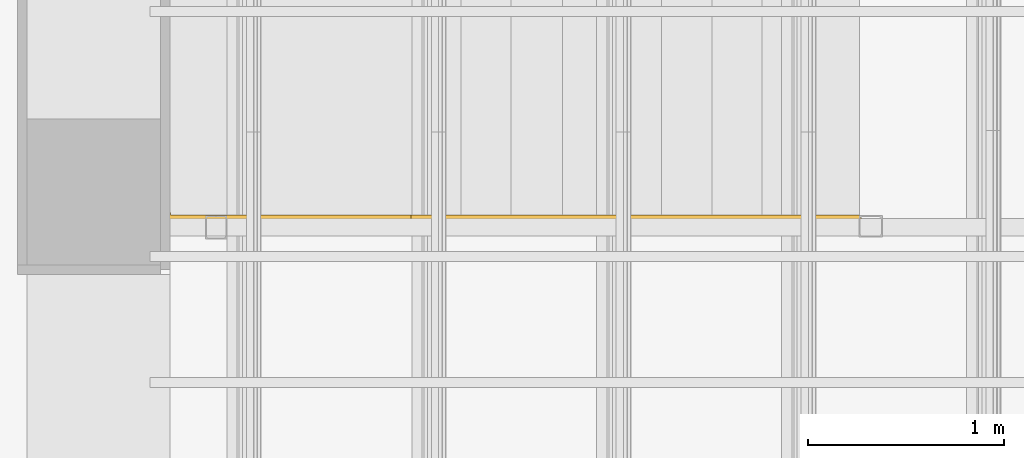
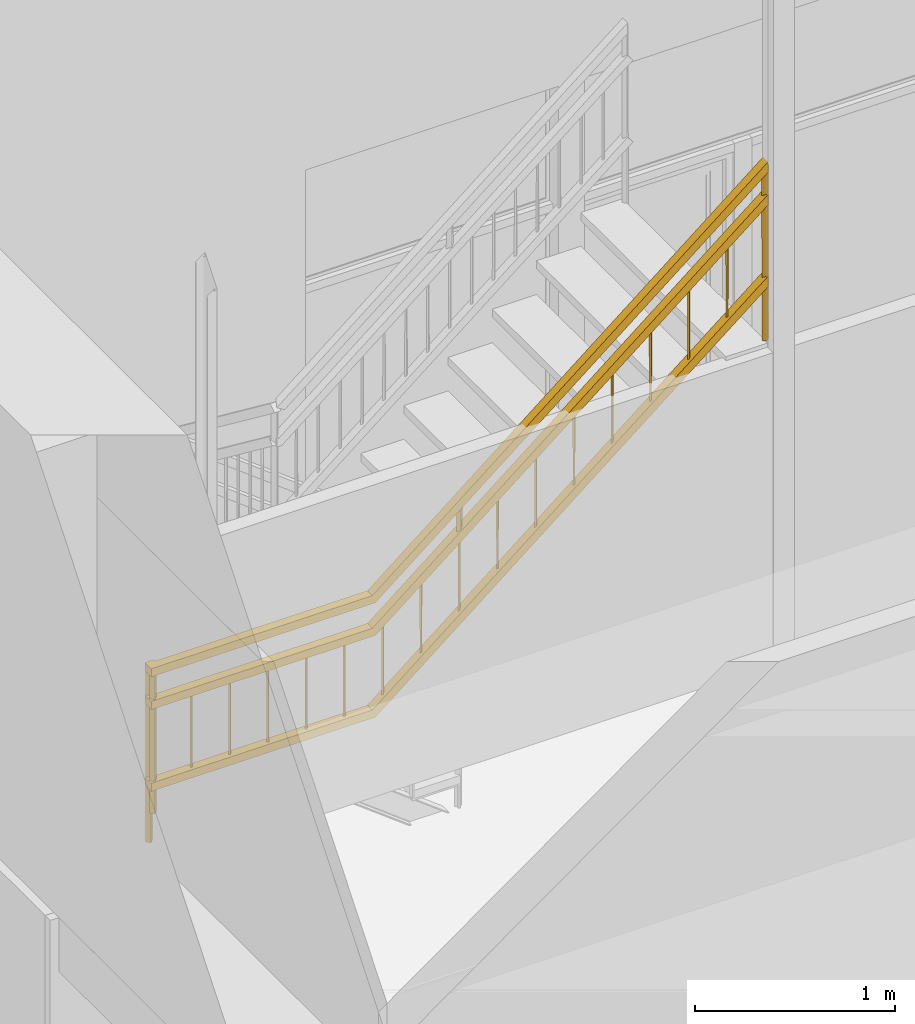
# One storey, part 57 of 75: 1 railing.
"""IFC2X3 building model written with IfcOpenShell, lengths in metres."""

from ifc_helpers import new_model, entity, si_unit, converted_unit, derived_unit, direction, frame, origin, place, context, subcontext, project, spatial, faceted_brep, element, save


model = new_model("IFC2X3")

# Units and contexts
model_context = context("Model", 3, precision=1e-05, world=origin(), true_north=direction((6.12303176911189e-17, 1.0)))
body_context = subcontext(model_context, "Body", "Model", "MODEL_VIEW")
ifc_project = project(units=[si_unit("LENGTHUNIT", "METRE"), si_unit("AREAUNIT", "SQUARE_METRE"), si_unit("VOLUMEUNIT", "CUBIC_METRE"), converted_unit("PLANEANGLEUNIT", "DEGREE", entity("IfcRatioMeasure", 0.0174532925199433), si_unit("PLANEANGLEUNIT", "RADIAN"), dimensions=[0, 0, 0, 0, 0, 0, 0]), si_unit("MASSUNIT", "GRAM", prefix="KILO"), derived_unit("MASSDENSITYUNIT", [(si_unit("MASSUNIT", "GRAM", prefix="KILO"), 1), (si_unit("LENGTHUNIT", "METRE"), -3)]), derived_unit("MOMENTOFINERTIAUNIT", [(si_unit("LENGTHUNIT", "METRE"), 4)]), si_unit("TIMEUNIT", "SECOND"), si_unit("FREQUENCYUNIT", "HERTZ"), si_unit("THERMODYNAMICTEMPERATUREUNIT", "DEGREE_CELSIUS"), derived_unit("THERMALTRANSMITTANCEUNIT", [(si_unit("MASSUNIT", "GRAM", prefix="KILO"), 1), (si_unit("THERMODYNAMICTEMPERATUREUNIT", "KELVIN"), -1), (si_unit("TIMEUNIT", "SECOND"), -3)]), derived_unit("VOLUMETRICFLOWRATEUNIT", [(si_unit("LENGTHUNIT", "METRE"), 3), (si_unit("TIMEUNIT", "SECOND"), -1)]), si_unit("ELECTRICCURRENTUNIT", "AMPERE"), si_unit("ELECTRICVOLTAGEUNIT", "VOLT"), si_unit("POWERUNIT", "WATT"), si_unit("FORCEUNIT", "NEWTON", prefix="KILO"), si_unit("ILLUMINANCEUNIT", "LUX"), si_unit("LUMINOUSFLUXUNIT", "LUMEN"), si_unit("LUMINOUSINTENSITYUNIT", "CANDELA"), derived_unit("USERDEFINED", [(si_unit("MASSUNIT", "GRAM", prefix="KILO"), -1), (si_unit("LENGTHUNIT", "METRE"), -2), (si_unit("TIMEUNIT", "SECOND"), 3), (si_unit("LUMINOUSFLUXUNIT", "LUMEN"), 1)]), derived_unit("LINEARVELOCITYUNIT", [(si_unit("LENGTHUNIT", "METRE"), 1), (si_unit("TIMEUNIT", "SECOND"), -1)]), si_unit("PRESSUREUNIT", "PASCAL"), derived_unit("USERDEFINED", [(si_unit("LENGTHUNIT", "METRE"), -2), (si_unit("MASSUNIT", "GRAM", prefix="KILO"), 1), (si_unit("TIMEUNIT", "SECOND"), -2)]), derived_unit("LINEARFORCEUNIT", [(si_unit("MASSUNIT", "GRAM", prefix="KILO"), 1), (si_unit("LENGTHUNIT", "METRE"), 1), (si_unit("TIMEUNIT", "SECOND"), -2), (si_unit("LENGTHUNIT", "METRE"), -1)]), derived_unit("PLANARFORCEUNIT", [(si_unit("MASSUNIT", "GRAM", prefix="KILO"), 1), (si_unit("LENGTHUNIT", "METRE"), 1), (si_unit("TIMEUNIT", "SECOND"), -2), (si_unit("LENGTHUNIT", "METRE"), -2)])], contexts=[model_context])

# Site, building, storey
site_placement = place(None, origin())
site = spatial("IfcSite", under=ifc_project, at=site_placement, Name="Superficie", CompositionType="ELEMENT")
building_placement = place(site_placement, origin())
building = spatial("IfcBuilding", under=site, at=building_placement, Name="Telegestiones", CompositionType="ELEMENT")
storey_placement = place(building_placement, origin())
storey = spatial("IfcBuildingStorey", under=building, at=storey_placement, Name="Nivel 0_NPT", CompositionType="ELEMENT", Elevation=0.0)

# Railing
railing_placement = place(storey_placement, frame((6.0352126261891, 1.49674260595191, 3.0896)))
element("IfcRailing", 1, at=railing_placement, inside=storey, Name="Barandilla:ARQ-BA-IN-Hi-Escalera", ObjectType="Barandilla:ARQ-BA-IN-Hi-Escalera", PredefinedType="NOTDEFINED", context=body_context, shape_type="Brep", body=[
    faceted_brep([(3.34618749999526, 0.0175000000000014, 2.07173004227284), (3.35349945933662, 0.0233310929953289, 2.52764443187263), (3.34618749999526, 0.0175000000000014, 2.52173004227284), (3.35349945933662, 0.0266689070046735, 2.07764443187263), (3.34618749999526, 0.0325000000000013, 2.07173004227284), (3.34618749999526, 0.0325000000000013, 2.52173004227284), (3.3388755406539, 0.0266689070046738, 2.51581565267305), (3.3388755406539, 0.0233310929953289, 2.06581565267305)], [[[0, 1, 2]], [[1, 0, 3]], [[3, 4, 5]], [[3, 5, 1]], [[5, 4, 6]], [[6, 4, 7]], [[7, 0, 2]], [[7, 2, 6]], [[2, 1, 5, 6]], [[0, 7, 4, 3]]]),
    faceted_brep([(3.12477499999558, 0.017500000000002, 1.89263717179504), (3.13208695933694, 0.0233310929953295, 2.34855156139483), (3.12477499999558, 0.017500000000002, 2.34263717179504), (3.13208695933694, 0.026668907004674, 1.89855156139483), (3.12477499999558, 0.0325000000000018, 1.89263717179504), (3.12477499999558, 0.0325000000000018, 2.34263717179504), (3.11746304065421, 0.0266689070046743, 2.33672278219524), (3.11746304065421, 0.0233310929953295, 1.88672278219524)], [[[0, 1, 2]], [[1, 0, 3]], [[3, 4, 5]], [[3, 5, 1]], [[5, 4, 6]], [[6, 4, 7]], [[7, 0, 2]], [[7, 2, 6]], [[2, 1, 5, 6]], [[0, 7, 4, 3]]]),
    faceted_brep([(2.90336249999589, 0.0175000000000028, 1.71354430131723), (2.91067445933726, 0.0233310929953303, 2.16945869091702), (2.90336249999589, 0.0175000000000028, 2.16354430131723), (2.91067445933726, 0.0266689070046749, 1.71945869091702), (2.90336249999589, 0.0325000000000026, 1.71354430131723), (2.90336249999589, 0.0325000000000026, 2.16354430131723), (2.89605054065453, 0.0266689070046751, 2.15762991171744), (2.89605054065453, 0.0233310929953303, 1.70762991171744)], [[[0, 1, 2]], [[1, 0, 3]], [[3, 4, 5]], [[3, 5, 1]], [[5, 4, 6]], [[6, 4, 7]], [[7, 0, 2]], [[7, 2, 6]], [[2, 1, 5, 6]], [[0, 7, 4, 3]]]),
    faceted_brep([(2.68194999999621, 0.0175000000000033, 1.53445143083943), (2.68926195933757, 0.0233310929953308, 1.99036582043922), (2.68194999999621, 0.0175000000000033, 1.98445143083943), (2.68926195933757, 0.0266689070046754, 1.54036582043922), (2.68194999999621, 0.0325000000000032, 1.53445143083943), (2.68194999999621, 0.0325000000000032, 1.98445143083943), (2.67463804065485, 0.0266689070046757, 1.97853704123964), (2.67463804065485, 0.0233310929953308, 1.52853704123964)], [[[0, 1, 2]], [[1, 0, 3]], [[3, 4, 5]], [[3, 5, 1]], [[5, 4, 6]], [[6, 4, 7]], [[7, 0, 2]], [[7, 2, 6]], [[2, 1, 5, 6]], [[0, 7, 4, 3]]]),
    faceted_brep([(2.46053749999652, 0.0175000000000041, 1.35535856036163), (2.46784945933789, 0.0233310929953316, 1.81127294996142), (2.46053749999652, 0.0175000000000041, 1.80535856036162), (2.46784945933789, 0.0266689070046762, 1.36127294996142), (2.46053749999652, 0.032500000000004, 1.35535856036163), (2.46053749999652, 0.032500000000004, 1.80535856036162), (2.45322554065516, 0.0266689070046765, 1.79944417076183), (2.45322554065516, 0.0233310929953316, 1.34944417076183)], [[[0, 1, 2]], [[1, 0, 3]], [[3, 4, 5]], [[3, 5, 1]], [[5, 4, 6]], [[6, 4, 7]], [[7, 0, 2]], [[7, 2, 6]], [[2, 1, 5, 6]], [[0, 7, 4, 3]]]),
    faceted_brep([(2.23912499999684, 0.017500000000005, 1.17626568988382), (2.2464369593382, 0.0233310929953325, 1.63218007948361), (2.23912499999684, 0.017500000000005, 1.62626568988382), (2.2464369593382, 0.026668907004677, 1.18218007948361), (2.23912499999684, 0.0325000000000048, 1.17626568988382), (2.23912499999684, 0.0325000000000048, 1.62626568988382), (2.23181304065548, 0.0266689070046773, 1.62035130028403), (2.23181304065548, 0.0233310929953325, 1.17035130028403)], [[[0, 1, 2]], [[1, 0, 3]], [[3, 4, 5]], [[3, 5, 1]], [[5, 4, 6]], [[6, 4, 7]], [[7, 0, 2]], [[7, 2, 6]], [[2, 1, 5, 6]], [[0, 7, 4, 3]]]),
    faceted_brep([(2.01771249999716, 0.0175000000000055, 0.997172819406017), (2.02502445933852, 0.023331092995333, 1.45308720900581), (2.01771249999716, 0.0175000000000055, 1.44717281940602), (2.02502445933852, 0.0266689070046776, 1.00308720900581), (2.01771249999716, 0.0325000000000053, 0.997172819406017), (2.01771249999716, 0.0325000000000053, 1.44717281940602), (2.01040054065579, 0.0266689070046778, 1.44125842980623), (2.01040054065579, 0.023331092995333, 0.991258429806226)], [[[0, 1, 2]], [[1, 0, 3]], [[3, 4, 5]], [[3, 5, 1]], [[5, 4, 6]], [[6, 4, 7]], [[7, 0, 2]], [[7, 2, 6]], [[2, 1, 5, 6]], [[0, 7, 4, 3]]]),
    faceted_brep([(1.79629999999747, 0.0175000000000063, 0.818079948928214), (1.80361195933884, 0.0233310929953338, 1.273994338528), (1.79629999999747, 0.0175000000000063, 1.26807994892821), (1.80361195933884, 0.0266689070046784, 0.823994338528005), (1.79629999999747, 0.0325000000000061, 0.818079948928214), (1.79629999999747, 0.0325000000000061, 1.26807994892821), (1.78898804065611, 0.0266689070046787, 1.26216555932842), (1.78898804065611, 0.0233310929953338, 0.812165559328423)], [[[0, 1, 2]], [[1, 0, 3]], [[3, 4, 5]], [[3, 5, 1]], [[5, 4, 6]], [[6, 4, 7]], [[7, 0, 2]], [[7, 2, 6]], [[2, 1, 5, 6]], [[0, 7, 4, 3]]]),
    faceted_brep([(1.80604927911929, 0.0127747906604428, 1.46165672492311), (1.80117463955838, 0.0111126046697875, 1.32202287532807), (1.80361195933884, 0.0141689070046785, 1.323994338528), (1.80604927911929, 0.017225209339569, 1.32596580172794), (1.81336123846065, 0.0236058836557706, 1.4675711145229), (1.81579855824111, 0.0205495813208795, 1.46954257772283), (1.81336123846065, 0.0263941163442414, 1.33188019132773), (1.80117463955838, 0.0088873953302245, 1.45771379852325), (1.79629999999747, 0.0450000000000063, 1.31807994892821), (1.79873731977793, 0.0419436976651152, 1.45574233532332), (1.80117463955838, 0.0411126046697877, 1.32202287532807), (1.80604927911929, 0.0327747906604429, 1.46165672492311), (1.80604927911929, 0.0372252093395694, 1.32596580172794), (1.80117463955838, 0.0388873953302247, 1.45771379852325), (1.80361195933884, 0.0358310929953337, 1.45968526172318), (1.79629999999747, 0.00500000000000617, 1.45377087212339), (1.79873731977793, 0.00805630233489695, 1.32005141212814), (1.8109239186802, 0.0333378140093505, 1.3299087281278), (1.80848659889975, 0.0202815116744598, 1.32793726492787), (1.8109239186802, 0.0233378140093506, 1.3299087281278), (1.80848659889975, 0.0297184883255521, 1.46362818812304), (1.8109239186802, 0.0266621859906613, 1.46559965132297), (1.81579855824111, 0.0294504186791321, 1.33385165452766), (1.79629999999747, 0.0450000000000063, 1.45377087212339), (1.8109239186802, 0.0166621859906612, 1.46559965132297), (1.79629999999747, 0.00500000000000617, 1.31807994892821), (1.78655072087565, 0.0372252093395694, 1.44588501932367), (1.79142536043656, 0.038887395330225, 1.31413702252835), (1.78898804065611, 0.0358310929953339, 1.31216555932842), (1.78655072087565, 0.0327747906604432, 1.31019409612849), (1.7841134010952, 0.0297184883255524, 1.30822263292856), (1.78167608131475, 0.0266621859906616, 1.30625116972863), (1.77680144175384, 0.0294504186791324, 1.43799916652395), (1.77923876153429, 0.0236058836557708, 1.3042797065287), (1.77923876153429, 0.0263941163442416, 1.43997062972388), (1.79386268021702, 0.00805630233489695, 1.45179940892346), (1.79142536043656, 0.00888739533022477, 1.31413702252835), (1.78655072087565, 0.0127747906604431, 1.31019409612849), (1.79142536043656, 0.0111126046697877, 1.44982794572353), (1.78898804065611, 0.0141689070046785, 1.4478564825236), (1.78655072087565, 0.0172252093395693, 1.44588501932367), (1.78167608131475, 0.033337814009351, 1.44194209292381), (1.79386268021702, 0.0419436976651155, 1.31610848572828), (1.79142536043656, 0.041112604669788, 1.44982794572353), (1.7841134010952, 0.0202815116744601, 1.44391355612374), (1.78167608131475, 0.0233378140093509, 1.44194209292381), (1.77680144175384, 0.02054958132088, 1.30230824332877), (1.78167608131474, 0.0166621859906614, 1.30625116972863)], [[[0, 1, 2, 3]], [[4, 5, 6]], [[1, 0, 7]], [[8, 9, 10]], [[11, 12, 13, 14]], [[15, 16, 7]], [[17, 12, 11]], [[5, 18, 19, 6]], [[20, 21, 4, 22]], [[22, 17, 20]], [[17, 11, 20]], [[9, 8, 23]], [[13, 12, 10]], [[22, 4, 6]], [[5, 24, 18]], [[24, 0, 3]], [[9, 13, 10]], [[16, 15, 25]], [[16, 1, 7]], [[24, 3, 18]], [[26, 27, 28, 29]], [[30, 31, 32]], [[31, 33, 34]], [[25, 35, 36]], [[37, 38, 39, 40]], [[32, 41, 30]], [[31, 34, 32]], [[41, 26, 29]], [[23, 42, 43]], [[44, 45, 46]], [[47, 40, 44]], [[38, 37, 36]], [[42, 23, 8]], [[27, 26, 43]], [[33, 45, 34]], [[46, 45, 33]], [[46, 47, 44]], [[47, 37, 40]], [[41, 29, 30]], [[35, 25, 15]], [[35, 38, 36]], [[42, 27, 43]], [[34, 45, 44, 40, 39, 38, 35, 15, 7, 0, 24, 5, 4, 21, 20, 11, 14, 13, 9, 23, 43, 26, 41, 32]], [[6, 19, 18, 3, 2, 1, 16, 25, 36, 37, 47, 46, 33, 31, 30, 29, 28, 27, 42, 8, 10, 12, 17, 22]]]),
    faceted_brep([(1.57488749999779, 0.0175000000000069, 0.63898707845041), (1.58219945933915, 0.0233310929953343, 1.0949014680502), (1.57488749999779, 0.0175000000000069, 1.08898707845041), (1.58219945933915, 0.0266689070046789, 0.6449014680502), (1.57488749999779, 0.0325000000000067, 0.63898707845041), (1.57488749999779, 0.0325000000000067, 1.08898707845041), (1.56757554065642, 0.0266689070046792, 1.08307268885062), (1.56757554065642, 0.0233310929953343, 0.633072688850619)], [[[0, 1, 2]], [[1, 0, 3]], [[3, 4, 5]], [[3, 5, 1]], [[5, 4, 6]], [[6, 4, 7]], [[7, 0, 2]], [[7, 2, 6]], [[2, 1, 5, 6]], [[0, 7, 4, 3]]]),
    faceted_brep([(1.3534749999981, 0.0175000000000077, 0.459894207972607), (1.36078695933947, 0.0233310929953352, 0.915808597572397), (1.3534749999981, 0.0175000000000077, 0.909894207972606), (1.36078695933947, 0.0266689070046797, 0.465808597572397), (1.3534749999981, 0.0325000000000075, 0.459894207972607), (1.3534749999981, 0.0325000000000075, 0.909894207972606), (1.34616304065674, 0.02666890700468, 0.903979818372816), (1.34616304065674, 0.0233310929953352, 0.453979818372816)], [[[0, 1, 2]], [[1, 0, 3]], [[3, 4, 5]], [[3, 5, 1]], [[5, 4, 6]], [[6, 4, 7]], [[7, 0, 2]], [[7, 2, 6]], [[2, 1, 5, 6]], [[0, 7, 4, 3]]]),
    faceted_brep([(1.13206249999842, 0.0175000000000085, 0.400000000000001), (1.13956249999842, 0.0250000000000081, 0.400000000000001), (1.13956249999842, 0.0250000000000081, 0.85), (1.13206249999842, 0.0175000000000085, 0.85), (1.13206249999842, 0.0325000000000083, 0.400000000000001), (1.13206249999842, 0.0325000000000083, 0.85), (1.12456249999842, 0.0250000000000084, 0.400000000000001), (1.12456249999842, 0.0250000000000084, 0.85)], [[[0, 1, 2, 3]], [[2, 1, 4, 5]], [[5, 4, 6, 7]], [[7, 6, 0, 3]], [[2, 5, 7, 3]], [[0, 6, 4, 1]]]),
    faceted_brep([(0.910649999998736, 0.017500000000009, 0.400000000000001), (0.918149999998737, 0.0250000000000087, 0.400000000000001), (0.918149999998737, 0.0250000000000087, 0.85), (0.910649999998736, 0.017500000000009, 0.85), (0.910649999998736, 0.0325000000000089, 0.400000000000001), (0.910649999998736, 0.0325000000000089, 0.85), (0.903149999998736, 0.0250000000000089, 0.400000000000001), (0.903149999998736, 0.0250000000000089, 0.85)], [[[0, 1, 2, 3]], [[2, 1, 4, 5]], [[5, 4, 6, 7]], [[7, 6, 0, 3]], [[2, 5, 7, 3]], [[0, 6, 4, 1]]]),
    faceted_brep([(0.689237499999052, 0.0175000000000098, 0.400000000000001), (0.696737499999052, 0.0250000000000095, 0.400000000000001), (0.696737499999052, 0.0250000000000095, 0.85), (0.689237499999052, 0.0175000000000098, 0.85), (0.689237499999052, 0.0325000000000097, 0.400000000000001), (0.689237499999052, 0.0325000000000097, 0.85), (0.681737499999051, 0.0250000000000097, 0.400000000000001), (0.681737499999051, 0.0250000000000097, 0.85)], [[[0, 1, 2, 3]], [[2, 1, 4, 5]], [[5, 4, 6, 7]], [[7, 6, 0, 3]], [[2, 5, 7, 3]], [[0, 6, 4, 1]]]),
    faceted_brep([(0.467824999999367, 0.0175000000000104, 0.400000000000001), (0.475324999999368, 0.02500000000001, 0.400000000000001), (0.475324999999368, 0.02500000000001, 0.85), (0.467824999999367, 0.0175000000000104, 0.85), (0.467824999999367, 0.0325000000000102, 0.400000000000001), (0.467824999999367, 0.0325000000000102, 0.85), (0.460324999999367, 0.0250000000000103, 0.400000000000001), (0.460324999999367, 0.0250000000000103, 0.85)], [[[0, 1, 2, 3]], [[2, 1, 4, 5]], [[5, 4, 6, 7]], [[7, 6, 0, 3]], [[2, 5, 7, 3]], [[0, 6, 4, 1]]]),
    faceted_brep([(0.246412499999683, 0.0175000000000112, 0.400000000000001), (0.253912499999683, 0.0250000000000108, 0.400000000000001), (0.253912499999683, 0.0250000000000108, 0.85), (0.246412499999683, 0.0175000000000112, 0.85), (0.246412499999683, 0.032500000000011, 0.400000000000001), (0.246412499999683, 0.032500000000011, 0.85), (0.238912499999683, 0.0250000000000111, 0.400000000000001), (0.238912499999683, 0.0250000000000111, 0.85)], [[[0, 1, 2, 3]], [[2, 1, 4, 5]], [[5, 4, 6, 7]], [[7, 6, 0, 3]], [[2, 5, 7, 3]], [[0, 6, 4, 1]]]),
    faceted_brep([(0.0249999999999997, 0.00500000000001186, 0.200000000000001), (0.0249999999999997, 0.00500000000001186, 1.05), (0.0225000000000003, 0.0075000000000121, 1.05), (0.0199999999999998, 0.0100000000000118, 1.05), (0.0175000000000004, 0.0125000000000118, 1.05), (0.0149999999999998, 0.0150000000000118, 1.05), (0.0115319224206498, 0.0184680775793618, 1.05), (0.00826596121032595, 0.0217340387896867, 1.05), (0.00499999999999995, 0.0250000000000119, 1.05), (0.00499999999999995, 0.0250000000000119, 0.200000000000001), (0.00826596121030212, 0.0217340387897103, 0.200000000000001), (0.0115319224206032, 0.0184680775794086, 0.200000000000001), (0.0147978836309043, 0.0152021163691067, 0.200000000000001), (0.0180638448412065, 0.0119361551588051, 0.200000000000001), (0.0215319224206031, 0.00846807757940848, 0.200000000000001), (0.0275000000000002, 0.00750000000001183, 1.05), (0.0275000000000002, 0.0075000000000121, 0.200000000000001), (0.0299999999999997, 0.0100000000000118, 0.200000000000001), (0.0324999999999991, 0.0125000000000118, 0.2), (0.0349999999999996, 0.0150000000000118, 0.200000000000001), (0.0375000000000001, 0.0175000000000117, 0.200000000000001), (0.0399999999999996, 0.0200000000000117, 0.2), (0.042499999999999, 0.0225000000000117, 0.200000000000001), (0.0449999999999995, 0.0250000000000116, 0.200000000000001), (0.0449999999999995, 0.0250000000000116, 1.05), (0.0417340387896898, 0.0217340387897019, 1.05), (0.0399999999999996, 0.0200000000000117, 1.05), (0.0374999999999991, 0.0175000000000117, 1.05), (0.0349999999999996, 0.0150000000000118, 1.05), (0.0325000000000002, 0.0125000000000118, 1.05), (0.0299999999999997, 0.0100000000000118, 1.05), (0.0425000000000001, 0.0275000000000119, 0.200000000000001), (0.0399999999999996, 0.0300000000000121, 0.200000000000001), (0.0375000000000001, 0.0325000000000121, 0.200000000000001), (0.0349999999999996, 0.0350000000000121, 0.200000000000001), (0.0324999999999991, 0.0375000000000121, 0.200000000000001), (0.0299999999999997, 0.040000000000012, 0.200000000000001), (0.0275000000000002, 0.042500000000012, 0.200000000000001), (0.0249999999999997, 0.045000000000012, 0.200000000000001), (0.0249999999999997, 0.045000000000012, 1.05), (0.0275000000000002, 0.042500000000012, 1.05), (0.0299999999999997, 0.040000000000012, 1.05), (0.0325000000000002, 0.0375000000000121, 1.05), (0.0349999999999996, 0.0350000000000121, 1.05), (0.0384680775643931, 0.0315319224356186, 1.05), (0.0417340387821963, 0.0282659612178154, 1.05), (0.0149999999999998, 0.0350000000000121, 0.200000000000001), (0.0115319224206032, 0.0315319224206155, 0.200000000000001), (0.00826596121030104, 0.0282659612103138, 0.200000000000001), (0.00826596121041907, 0.0282659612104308, 1.05), (0.0115319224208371, 0.0315319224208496, 1.05), (0.0147978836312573, 0.0347978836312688, 1.05), (0.0180638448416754, 0.0380638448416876, 1.05), (0.0215319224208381, 0.0415319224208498, 1.05), (0.0224999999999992, 0.042500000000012, 0.200000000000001), (0.0199999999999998, 0.040000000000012, 0.200000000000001), (0.0174999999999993, 0.0375000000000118, 0.200000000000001)], [[[0, 1, 2, 3, 4, 5, 6, 7, 8, 9, 10, 11, 12, 13, 14]], [[15, 1, 0, 16, 17, 18, 19, 20, 21, 22, 23, 24, 25, 26, 27, 28, 29, 30]], [[24, 23, 31, 32, 33, 34, 35, 36, 37, 38, 39, 40, 41, 42, 43, 44, 45]], [[46, 47, 48, 9, 8, 49, 50, 51, 52, 53, 39, 38, 54, 55, 56]], [[39, 53, 52, 51, 50, 49, 8, 7, 6, 5, 4, 3, 2, 1, 15, 30, 29, 28, 27, 26, 25, 24, 45, 44, 43, 42, 41, 40]], [[22, 21, 20, 19, 18, 17, 16, 0, 14, 13, 12, 11, 10, 9, 48, 47, 46, 56, 55, 54, 38, 37, 36, 35, 34, 33, 32, 31, 23]]]),
    faceted_brep([(3.57259999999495, 0.0100000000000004, 1.85082291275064), (3.57352315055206, 0.00972355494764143, 2.90561394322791), (3.5705615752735, 0.00736177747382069, 2.90321842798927), (3.58466123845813, 0.0236058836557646, 2.91462315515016), (3.58509999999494, 0.0225000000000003, 1.85082291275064), (3.58759999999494, 0.0250000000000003, 1.85082291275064), (3.57247463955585, 0.038887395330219, 2.9047658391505), (3.57259999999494, 0.0400000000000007, 1.85082291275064), (3.5700373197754, 0.0419436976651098, 2.90279437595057), (3.57734927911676, 0.0127747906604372, 2.90870876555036), (3.57509999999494, 0.0125000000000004, 1.85082291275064), (3.57759999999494, 0.0150000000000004, 1.85082291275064), (3.57020379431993, 0.0423962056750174, 1.85082291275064), (3.58509999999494, 0.0275000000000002, 1.85082291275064), (3.58222391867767, 0.0266621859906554, 2.91265169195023), (3.57491195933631, 0.035831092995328, 2.90673730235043), (3.57509999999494, 0.0375000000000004, 1.85082291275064), (3.58259999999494, 0.0300000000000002, 1.85082291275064), (3.57978659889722, 0.0297184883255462, 2.91068022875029), (3.58009999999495, 0.0325000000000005, 1.85082291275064), (3.58222391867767, 0.0166621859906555, 2.91265169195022), (3.58009999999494, 0.0175000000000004, 1.85082291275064), (3.58259999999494, 0.0200000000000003, 1.85082291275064), (3.56759999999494, 0.0450000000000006, 2.90082291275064), (3.56759999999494, 0.0450000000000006, 1.85082291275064), (3.56759999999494, 0.00500000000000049, 2.90082291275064), (3.57020379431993, 0.00760379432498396, 1.85082291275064), (3.58709855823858, 0.0205495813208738, 2.91659461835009), (3.57734927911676, 0.0327747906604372, 2.90870876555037), (3.57759999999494, 0.0350000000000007, 1.85082291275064), (3.56759999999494, 0.00500000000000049, 1.85082291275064), (3.55759999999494, 0.0350000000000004, 1.85082291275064), (3.55297608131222, 0.0333378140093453, 2.88899413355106), (3.55785072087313, 0.0372252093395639, 2.89293705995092), (3.55053876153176, 0.026394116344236, 2.88702267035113), (3.55009999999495, 0.0225000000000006, 1.85082291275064), (3.55297608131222, 0.0233378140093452, 2.88899413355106), (3.54759999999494, 0.0250000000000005, 1.85082291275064), (3.55759999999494, 0.0150000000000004, 1.85082291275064), (3.56028804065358, 0.0141689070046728, 2.89490852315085), (3.55785072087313, 0.0172252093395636, 2.89293705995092), (3.56495612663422, 0.00764387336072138, 1.85082291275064), (3.55509999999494, 0.0175000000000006, 1.85082291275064), (3.55541340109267, 0.0202815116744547, 2.89096559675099), (3.55259999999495, 0.0200000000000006, 1.85082291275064), (3.54810144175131, 0.029450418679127, 2.8850512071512), (3.55259999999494, 0.0300000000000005, 1.85082291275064), (3.55009999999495, 0.0275000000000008, 1.85082291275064), (3.56516268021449, 0.00805630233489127, 2.89885144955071), (3.5623122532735, 0.0102877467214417, 1.85082291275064), (3.55509999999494, 0.0325000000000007, 1.85082291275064), (3.56509999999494, 0.0425000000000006, 1.85082291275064), (3.55995612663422, 0.0126438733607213, 1.85082291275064), (3.56272536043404, 0.011112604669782, 2.89687998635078), (3.56272536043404, 0.0411126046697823, 2.89687998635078), (3.56009999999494, 0.0375000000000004, 1.85082291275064), (3.56259999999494, 0.0400000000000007, 1.85082291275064)], [[[0, 1, 2]], [[3, 4, 5]], [[6, 7, 8]], [[9, 10, 11]], [[12, 8, 7]], [[13, 3, 5]], [[3, 13, 14]], [[6, 15, 16]], [[17, 18, 14]], [[19, 18, 17]], [[20, 11, 21, 22]], [[12, 23, 8]], [[16, 7, 6]], [[24, 23, 12]], [[2, 25, 26]], [[0, 10, 1]], [[1, 10, 9]], [[22, 27, 20]], [[27, 22, 4]], [[18, 19, 28]], [[27, 4, 3]], [[13, 17, 14]], [[15, 28, 29]], [[25, 30, 26]], [[0, 2, 26]], [[11, 20, 9]], [[19, 29, 28]], [[15, 29, 16]], [[31, 32, 33]], [[34, 35, 36]], [[35, 34, 37]], [[38, 39, 40]], [[25, 41, 30]], [[42, 43, 44]], [[45, 46, 47]], [[48, 49, 41]], [[32, 31, 50, 46]], [[51, 23, 24]], [[44, 43, 36]], [[41, 25, 48]], [[52, 53, 39]], [[52, 49, 53]], [[23, 51, 54]], [[54, 55, 33]], [[46, 45, 32]], [[43, 42, 40]], [[47, 37, 34]], [[35, 44, 36]], [[53, 49, 48]], [[39, 38, 52]], [[55, 54, 51, 56]], [[55, 31, 33]], [[42, 38, 40]], [[45, 47, 34]], [[34, 36, 43, 40, 39, 53, 48, 25, 2, 1, 9, 20, 27, 3, 14, 18, 28, 15, 6, 8, 23, 54, 33, 32, 45]], [[5, 4, 22, 21, 11, 10, 0, 26, 30, 41, 49, 52, 38, 42, 44, 35, 37, 47, 46, 50, 31, 55, 56, 51, 24, 12, 7, 16, 29, 19, 17, 13]]]),
    faceted_brep([(0.0226438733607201, 0.0465144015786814, 0.0), (0.0249999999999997, 0.0441582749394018, 0.0), (0.0249999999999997, 0.0441582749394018, 1.05), (0.0224999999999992, 0.046658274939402, 1.05), (0.0199999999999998, 0.049158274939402, 1.05), (0.0175000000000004, 0.0516582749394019, 1.05), (0.0149999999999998, 0.0541582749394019, 1.05), (0.0126438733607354, 0.0565144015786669, 1.05), (0.0102877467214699, 0.0588705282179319, 1.05), (0.00764387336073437, 0.0615144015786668, 1.05), (0.00499999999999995, 0.0641582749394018, 1.05), (0.00499999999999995, 0.0641582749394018, 0.0), (0.00764387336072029, 0.0615144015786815, 0.0), (0.0102877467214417, 0.0588705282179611, 0.0), (0.012931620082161, 0.0562266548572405, 0.0), (0.0155754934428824, 0.0535827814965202, 0.0), (0.0179316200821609, 0.0512266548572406, 0.0), (0.0202877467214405, 0.048870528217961, 0.0), (0.0273561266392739, 0.0465144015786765, 1.05), (0.0275000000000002, 0.046658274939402, 0.0), (0.0299999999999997, 0.0491582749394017, 0.0), (0.0324999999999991, 0.0516582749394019, 0.0), (0.0349999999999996, 0.0541582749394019, 0.0), (0.0373561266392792, 0.0565144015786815, 0.0), (0.0397122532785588, 0.0588705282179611, 0.0), (0.0423561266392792, 0.0615144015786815, 0.0), (0.0449999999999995, 0.0641582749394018, 0.0), (0.0449999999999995, 0.0641582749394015, 1.05), (0.0423561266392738, 0.0615144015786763, 1.05), (0.0397122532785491, 0.0588705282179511, 1.05), (0.0370683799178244, 0.0562266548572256, 1.05), (0.0344245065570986, 0.0535827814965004, 1.05), (0.0320683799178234, 0.0512266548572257, 1.05), (0.0297122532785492, 0.0488705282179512, 1.05), (0.0399999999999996, 0.0691582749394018, 0.0), (0.0374999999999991, 0.0716582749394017, 0.0), (0.0349999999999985, 0.0741582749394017, 0.0), (0.0324999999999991, 0.0766582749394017, 0.0), (0.0299999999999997, 0.0791582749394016, 0.0), (0.0275000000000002, 0.0816582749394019, 0.0), (0.0249999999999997, 0.0841582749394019, 0.0), (0.0249999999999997, 0.0841582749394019, 1.05), (0.0274999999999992, 0.0816582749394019, 1.05), (0.0299999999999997, 0.0791582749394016, 1.05), (0.0324999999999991, 0.0766582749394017, 1.05), (0.0349999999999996, 0.0741582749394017, 1.05), (0.0373561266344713, 0.0718021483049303, 1.05), (0.0397122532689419, 0.0694460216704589, 1.05), (0.0423561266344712, 0.0668021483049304, 1.05), (0.0423561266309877, 0.0668021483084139, 0.0), (0.0226438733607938, 0.0818021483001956, 1.05), (0.0224999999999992, 0.0816582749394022, 0.0), (0.0199999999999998, 0.0791582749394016, 0.0), (0.0175000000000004, 0.0766582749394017, 0.0), (0.0149999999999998, 0.0741582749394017, 0.0), (0.0126438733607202, 0.0718021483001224, 0.0), (0.0102877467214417, 0.069446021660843, 0.0), (0.00764387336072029, 0.0668021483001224, 0.0), (0.00764387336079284, 0.0668021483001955, 1.05), (0.0102877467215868, 0.0694460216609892, 1.05), (0.0129316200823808, 0.0720898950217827, 1.05), (0.0155754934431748, 0.0747337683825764, 1.05), (0.0179316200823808, 0.0770898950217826, 1.05), (0.0202877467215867, 0.0794460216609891, 1.05)], [[[0, 1, 2, 3, 4, 5, 6, 7, 8, 9, 10, 11, 12, 13, 14, 15, 16, 17]], [[18, 2, 1, 19, 20, 21, 22, 23, 24, 25, 26, 27, 28, 29, 30, 31, 32, 33]], [[34, 35, 36, 37, 38, 39, 40, 41, 42, 43, 44, 45, 46, 47, 48, 27, 26, 49]], [[50, 41, 40, 51, 52, 53, 54, 55, 56, 57, 11, 10, 58, 59, 60, 61, 62, 63]], [[41, 50, 63, 62, 61, 60, 59, 58, 10, 9, 8, 7, 6, 5, 4, 3, 2, 18, 33, 32, 31, 30, 29, 28, 27, 48, 47, 46, 45, 44, 43, 42]], [[25, 24, 23, 22, 21, 20, 19, 1, 0, 17, 16, 15, 14, 13, 12, 11, 57, 56, 55, 54, 53, 52, 51, 40, 39, 38, 37, 36, 35, 34, 49, 26]]]),
    faceted_brep([(0.0, 0.0641582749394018, 0.900000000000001), (0.0499999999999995, 0.0641582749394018, 0.900000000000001), (0.0499999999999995, 0.0641582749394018, 0.850000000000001), (0.0, 0.0641582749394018, 0.850000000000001), (0.0, 0.0, 0.900000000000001), (0.0, 0.0, 0.850000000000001), (0.0499999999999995, 0.0500000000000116, 0.850000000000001), (0.0499999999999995, 0.0500000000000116, 0.900000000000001)], [[[0, 1, 2, 3]], [[4, 5, 6, 7]], [[1, 0, 4, 7]], [[2, 1, 7, 6]], [[3, 2, 6, 5]], [[0, 3, 5, 4]]]),
    faceted_brep([(0.0, 0.0, 0.900000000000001), (0.0499999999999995, 0.0500000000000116, 0.900000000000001), (0.0499999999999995, 0.0500000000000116, 0.850000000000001), (0.0, 0.0, 0.850000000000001), (1.27942779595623, 0.0, 0.900000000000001), (1.27942779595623, 0.0500000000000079, 0.900000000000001), (1.29711810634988, 0.0500000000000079, 0.850000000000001), (1.29711810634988, 0.0, 0.850000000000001), (3.56759999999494, 0.0, 2.75082291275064), (3.56759999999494, 0.0, 2.68651383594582), (3.56759999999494, 0.05, 2.68651383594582), (3.56759999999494, 0.0500000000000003, 2.75082291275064)], [[[0, 1, 2, 3]], [[1, 0, 4, 5]], [[2, 1, 5, 6]], [[3, 2, 6, 7]], [[0, 3, 7, 4]], [[8, 9, 10, 11]], [[5, 4, 8, 11]], [[6, 5, 11, 10]], [[7, 6, 10, 9]], [[4, 7, 9, 8]]]),
    faceted_brep([(0.0, 0.0641582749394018, 0.400000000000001), (0.0499999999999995, 0.0641582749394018, 0.400000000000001), (0.0499999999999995, 0.0641582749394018, 0.350000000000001), (0.0, 0.0641582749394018, 0.350000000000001), (0.0, 0.0, 0.400000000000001), (0.0, 0.0, 0.350000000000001), (0.0499999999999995, 0.0500000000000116, 0.350000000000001), (0.0499999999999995, 0.0500000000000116, 0.400000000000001)], [[[0, 1, 2, 3]], [[4, 5, 6, 7]], [[1, 0, 4, 7]], [[2, 1, 7, 6]], [[3, 2, 6, 5]], [[0, 3, 5, 4]]]),
    faceted_brep([(0.0, 0.0, 0.400000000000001), (0.0499999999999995, 0.0500000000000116, 0.400000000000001), (0.0499999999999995, 0.0500000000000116, 0.350000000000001), (0.0, 0.0, 0.350000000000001), (1.27942779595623, 0.0, 0.400000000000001), (1.27942779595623, 0.0500000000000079, 0.400000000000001), (1.29711810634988, 0.0500000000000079, 0.350000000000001), (1.29711810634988, 0.0, 0.350000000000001), (3.56759999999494, 0.0, 2.25082291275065), (3.56759999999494, 0.0, 2.18651383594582), (3.56759999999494, 0.0500000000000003, 2.18651383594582), (3.56759999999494, 0.0500000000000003, 2.25082291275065)], [[[0, 1, 2, 3]], [[1, 0, 4, 5]], [[2, 1, 5, 6]], [[3, 2, 6, 7]], [[0, 3, 7, 4]], [[8, 9, 10, 11]], [[5, 4, 8, 11]], [[6, 5, 11, 10]], [[7, 6, 10, 9]], [[4, 7, 9, 8]]]),
    faceted_brep([(0.0499999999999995, 0.0641582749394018, 1.1), (0.0499999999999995, 0.0641582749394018, 1.05), (0.0, 0.0641582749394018, 1.05), (0.0, 0.0641582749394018, 1.1), (0.0499999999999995, 0.0500000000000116, 1.1), (0.0499999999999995, 0.0500000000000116, 1.05), (0.0, 0.0, 1.05), (0.0, 0.0, 1.1), (1.27942779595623, 0.0500000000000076, 1.1), (1.29711810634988, 0.0500000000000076, 1.05), (1.29711810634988, 0.0, 1.05), (1.27942779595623, 0.0, 1.1), (3.56759999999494, 0.0500000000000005, 2.95082291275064), (3.56759999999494, 0.0, 2.95082291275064), (3.56759999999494, 0.0, 2.88651383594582), (3.56759999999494, 0.05, 2.88651383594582)], [[[0, 1, 2, 3]], [[1, 0, 4, 5]], [[2, 1, 5, 6]], [[3, 2, 6, 7]], [[0, 3, 7, 4]], [[5, 4, 8, 9]], [[6, 5, 9, 10]], [[7, 6, 10, 11]], [[4, 7, 11, 8]], [[12, 13, 14, 15]], [[9, 8, 12, 15]], [[10, 9, 15, 14]], [[11, 10, 14, 13]], [[8, 11, 13, 12]]]),
])

save(model, "model.ifc")
